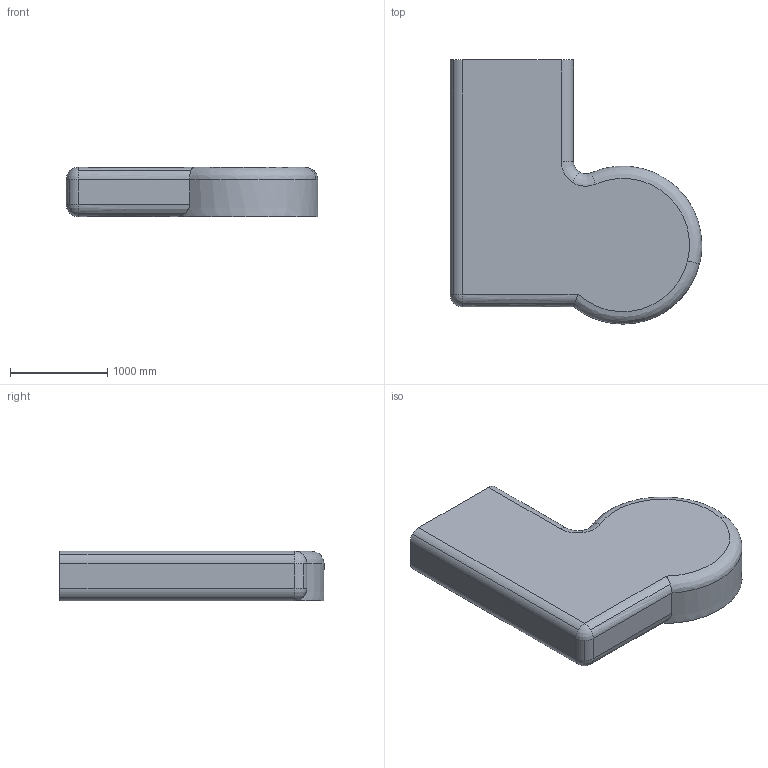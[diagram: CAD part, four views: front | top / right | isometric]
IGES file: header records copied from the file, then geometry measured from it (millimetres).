
Start section: IMSI TurboCAD v12.0
Global section: author: NULL; organization: NULL; date: 20080111.214846; units: inch
Bounding box: 2591.2 x 2718.18 x 508 mm (x, y, z)
Surface area: 14362160.6 mm2 (no closed solid volume)
Topology: 0 solids, 0 shells, 28 faces, 138 edges, 136 vertices
Faces by surface type: revolution 22, extrusion 6
